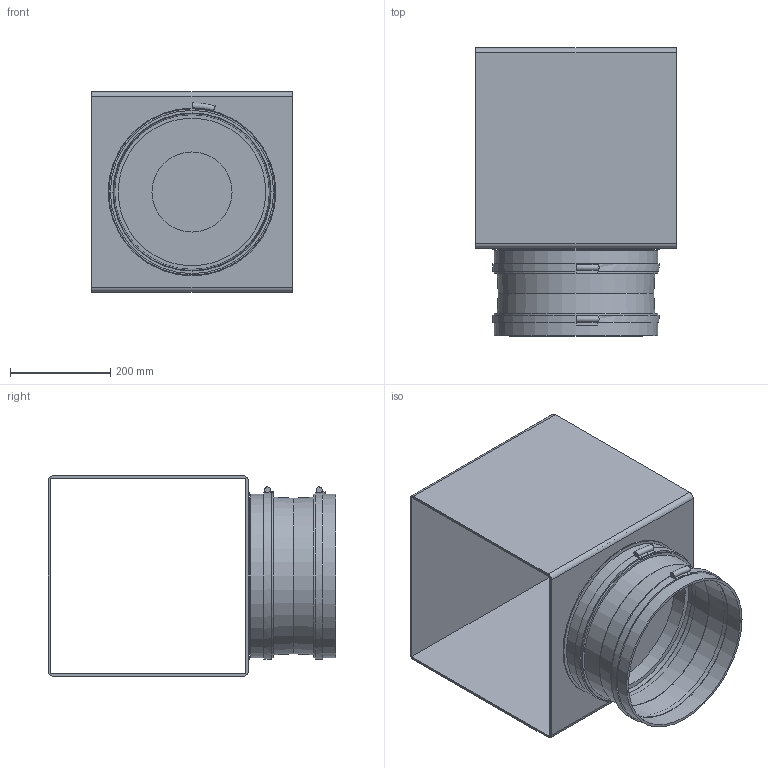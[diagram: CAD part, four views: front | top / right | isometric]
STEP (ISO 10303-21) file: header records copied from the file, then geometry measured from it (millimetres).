
FILE_DESCRIPTION(/* description */ (''),/* implementation_level */ '2;1');
FILE_NAME(/* name */ 'Z:\Output\GBW EC 250_DoubleRadial-05807-001.stp',/* time_stamp */ '2017-05-09T00:03:46+02:00',/* author */ ('jayeshpanchal'),/* organization */ (''),/* preprocessor_version */ 'ST-DEVELOPER v16.5',/* originating_system */ 'Autodesk Inventor 2017',/* authorisation */ '');
FILE_SCHEMA (('AUTOMOTIVE_DESIGN { 1 0 10303 214 3 1 1 }'));
Length unit declared in the file: millimetre
Products named in the file (1): GB-3
Bounding box: 400 x 575 x 400 mm (x, y, z)
Volume: 3970055.3 mm3; surface area: 1713874.9 mm2
Topology: 4 solids, 4 shells, 61 faces, 121 edges, 77 vertices
Faces by surface type: plane 31, cylinder 24, cone 4, torus 2
Full cylindrical faces by diameter (mm): 160 x1, 295 x1, 305 x1, 315 x1, 316 x4, 325 x1, 326 x4, 332 x2, 335 x1
Entity records: 1519 total; most frequent: DIRECTION 280, CARTESIAN_POINT 238, ORIENTED_EDGE 204, AXIS2_PLACEMENT_3D 118, EDGE_LOOP 100, EDGE_CURVE 100, VERTEX_POINT 76, FACE_OUTER_BOUND 61
